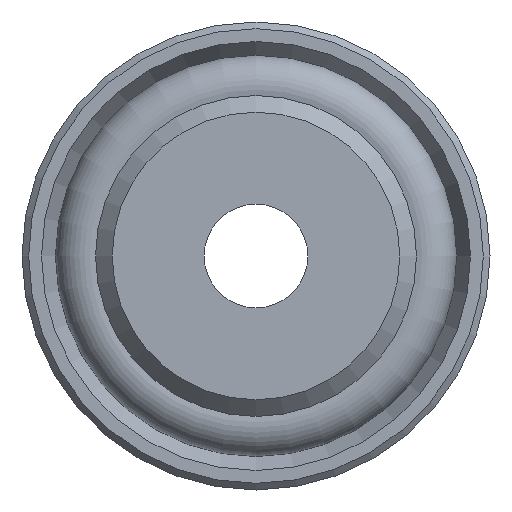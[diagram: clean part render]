
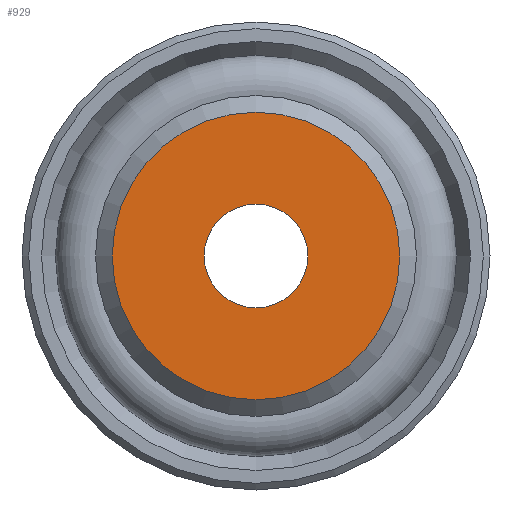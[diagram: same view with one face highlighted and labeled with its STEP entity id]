
A CAD part, front view. The second image highlights one B-rep face of the part: STEP entity #929.
In plain terms, the highlighted planar face has unit normal (0, -1, 0).
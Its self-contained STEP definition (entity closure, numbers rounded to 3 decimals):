
#895=CARTESIAN_POINT('',(-1.55,0.,0.0));
#896=VERTEX_POINT('',#895);
#897=CARTESIAN_POINT('',(0.0,0.,0.0));
#898=DIRECTION('',(0.0,1.0,0.0));
#899=DIRECTION('',(-1.0,0.0,0.0));
#900=AXIS2_PLACEMENT_3D('',#897,#898,#899);
#901=CIRCLE('',#900,1.55);
#902=EDGE_CURVE('',#896,#896,#901,.T.);
#910=CARTESIAN_POINT('',(-2.925,0.,0.0));
#911=DIRECTION('',(0.0,-1.0,0.0));
#912=DIRECTION('',(0.0,0.0,-1.0));
#913=AXIS2_PLACEMENT_3D('',#910,#911,#912);
#914=PLANE('',#913);
#915=CARTESIAN_POINT('',(-4.3,0.,0.0));
#916=VERTEX_POINT('',#915);
#917=CARTESIAN_POINT('',(0.0,0.,0.0));
#918=DIRECTION('',(0.0,1.0,0.0));
#919=DIRECTION('',(-1.0,0.0,0.0));
#920=AXIS2_PLACEMENT_3D('',#917,#918,#919);
#921=CIRCLE('',#920,4.3);
#922=EDGE_CURVE('',#916,#916,#921,.T.);
#923=ORIENTED_EDGE('',*,*,#922,.F.);
#924=EDGE_LOOP('',(#923));
#925=FACE_OUTER_BOUND('',#924,.T.);
#926=ORIENTED_EDGE('',*,*,#902,.T.);
#927=EDGE_LOOP('',(#926));
#928=FACE_BOUND('',#927,.T.);
#929=ADVANCED_FACE('',(#925,#928),#914,.T.);
